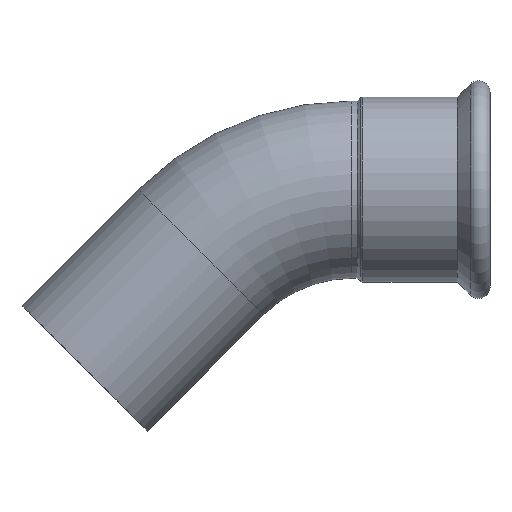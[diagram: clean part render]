
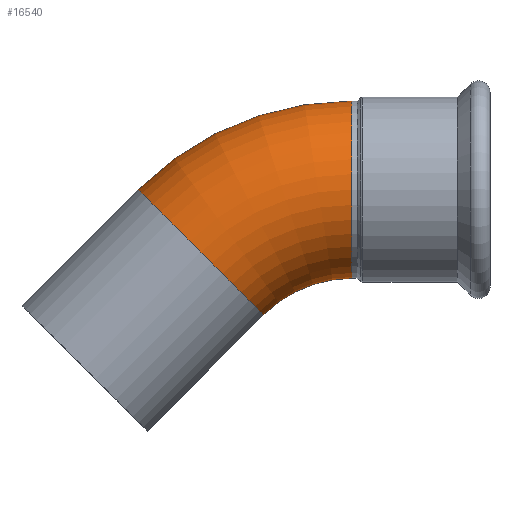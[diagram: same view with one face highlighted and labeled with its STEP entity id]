
A CAD part, top view. The second image highlights one B-rep face of the part: STEP entity #16540.
In plain terms, the highlighted toroidal (fillet/blend) face has major radius 130 mm and minor radius 54 mm.
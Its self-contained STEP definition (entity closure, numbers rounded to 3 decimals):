
#13600=CARTESIAN_POINT('',(0.848,-54.,0.)
);
#13610=VERTEX_POINT('',#13600);
#13690=CARTESIAN_POINT('',(0.848,54.,0.));
#13700=VERTEX_POINT('',#13690);
#13830=CARTESIAN_POINT('',(0.848,-130.,0.));
#13840=DIRECTION('',(0.,0.,1.));
#13850=DIRECTION('',(0.,1.,0.));
#13860=AXIS2_PLACEMENT_3D('',#13830,#13840,#13850);
#13870=TOROIDAL_SURFACE('',#13860,130.,54.);
#13880=CARTESIAN_POINT('',(0.848,-130.,0.
));
#13890=DIRECTION('',(0.,0.,1.));
#13900=DIRECTION('',(0.,1.,0.));
#13910=AXIS2_PLACEMENT_3D('',#13880,#13890,#13900);
#13920=CIRCLE('',#13910,76.);
#13930=CARTESIAN_POINT('',(-52.892,-76.26,
0.));
#13940=VERTEX_POINT('',#13930);
#13950=EDGE_CURVE('',#13610,#13940,#13920,.T.);
#13980=CARTESIAN_POINT('',(0.848,-130.,0.
));
#13990=DIRECTION('',(0.,0.,1.));
#14000=DIRECTION('',(0.,1.,0.));
#14010=AXIS2_PLACEMENT_3D('',#13980,#13990,#14000);
#14020=CIRCLE('',#14010,184.);
#14030=CARTESIAN_POINT('',(-129.26,0.108,
0.));
#14040=VERTEX_POINT('',#14030);
#14050=EDGE_CURVE('',#13700,#14040,#14020,.T.);
#14070=CARTESIAN_POINT('',(-91.076,-38.076,0.));
#14080=DIRECTION('',(0.707,0.707,0.));
#14090=DIRECTION('',(-0.707,0.707,0.));
#14100=AXIS2_PLACEMENT_3D('',#14070,#14080,#14090);
#14110=CIRCLE('',#14100,54.);
#15640=EDGE_CURVE('',#14040,#13940,#14110,.T.);
#16130=CARTESIAN_POINT('',(0.848,0.,0.));
#16140=DIRECTION('',(-1.,0.,0.));
#16150=DIRECTION('',(0.,1.,0.));
#16160=AXIS2_PLACEMENT_3D('',#16130,#16140,#16150);
#16170=CIRCLE('',#16160,54.);
#16180=EDGE_CURVE('',#13610,#13700,#16170,.T.);
#16480=ORIENTED_EDGE('',*,*,#15640,.T.);
#16490=ORIENTED_EDGE('',*,*,#14050,.T.);
#16500=ORIENTED_EDGE('',*,*,#16180,.T.);
#16510=ORIENTED_EDGE('',*,*,#13950,.F.);
#16520=EDGE_LOOP('',(#16510,#16500,#16490,#16480));
#16530=FACE_OUTER_BOUND('',#16520,.T.);
#16540=ADVANCED_FACE('',(#16530),#13870,.T.);
